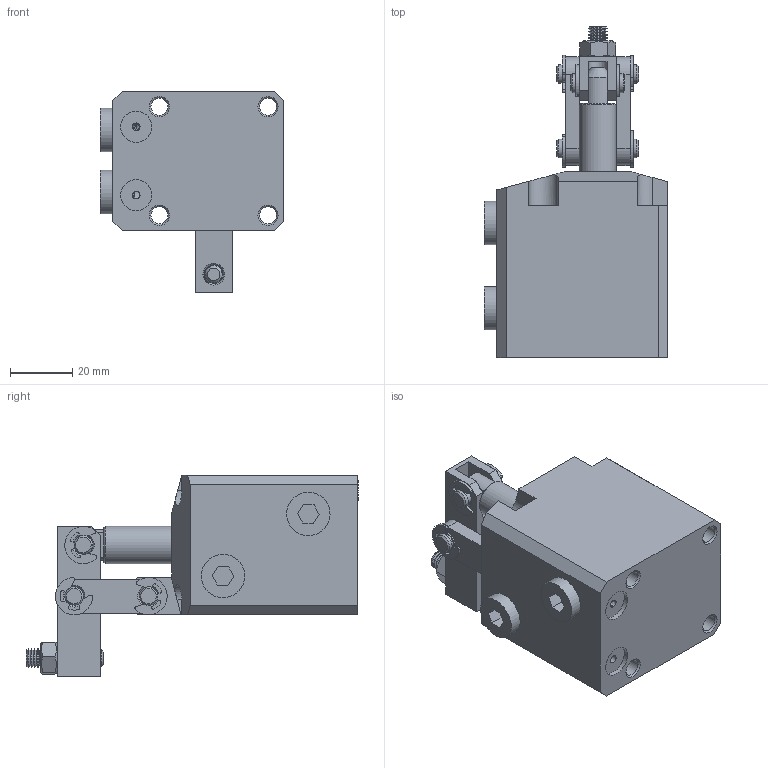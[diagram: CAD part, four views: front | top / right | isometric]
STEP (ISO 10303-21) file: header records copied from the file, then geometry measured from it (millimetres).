
FILE_DESCRIPTION(/* description */ ('STEP AP203'),/* implementation_level */ '2;1');
FILE_NAME(/* name */ 'D:\Vault_2016\Projekty\Clamptek\Hydraulic\CBLU\CBLU-25\STEP\CBLU-25GL.stp',/* time_stamp */ '2021-05-06T11:56:44+02:00',/* author */ ('user'),/* organization */ (''),/* preprocessor_version */ 'ST-DEVELOPER v18.1',/* originating_system */ 'Autodesk Inventor 2021',/* authorisation */ '');
FILE_SCHEMA (('AUTOMOTIVE_DESIGN { 1 0 10303 214 3 1 1 }'));
Length unit declared in the file: millimetre
Products named in the file (11): CBLU-25GL; CL±¾Ìå_1_1; »îÈû¸Ë_1; Ñ¹±Û_1; Á¬¸Ë_1; hex nuts, style 1-grades ab gb_GB_FASTENER_NUT_SNAB1 M6-N_1; ³¤ÏúÖá_1; ¶ÌÏúÖá_1; socket set screw flat point_iso2_ISO 4026 - M6 x 4-S_1; e rings gb_GB_CONNECTING_PIECE_RINGS_HR 6_1; ÄÚÁù½Ç¶ÂÍ·×
îÐÂ_1
Assembly tree (19 placements, depth 2):
  CBLU-25GL
    CL±¾Ìå_1_1
    »îÈû¸Ë_1
    Ñ¹±Û_1
    Á¬¸Ë_1  x2
    hex nuts, style 1-grades ab gb_GB_FASTENER_NUT_SNAB1 M6-N_1
    e rings gb_GB_CONNECTING_PIECE_RINGS_HR 6_1  x7
    ³¤ÏúÖá_1  x2
    ¶ÌÏúÖá_1
    socket set screw flat point_iso2_ISO 4026 - M6 x 4-S_1
    ÄÚÁù½Ç¶ÂÍ·×
îÐÂ_1  x2
Bounding box: 59 x 107 x 65 mm (x, y, z)
Volume: 141923.3 mm3; surface area: 41135.2 mm2
Topology: 21 solids, 21 shells, 475 faces, 1194 edges, 784 vertices
Faces by surface type: cylinder 190, plane 184, cone 94, bspline 5, torus 2
Full cylindrical faces by diameter (mm): 2 x2, 2.5 x1, 4.917 x1, 5 x6, 5.5 x4, 6 x63, 9 x4, 10 x2, 12 x2, 14 x2, 19.225 x1, 20 x1, 25 x2, 30 x1, 32 x1
Entity records: 24413 total; most frequent: CARTESIAN_POINT 16169, DIRECTION 1728, ORIENTED_EDGE 1586, EDGE_CURVE 793, AXIS2_PLACEMENT_3D 668, VERTEX_POINT 518, LINE 392, VECTOR 392
